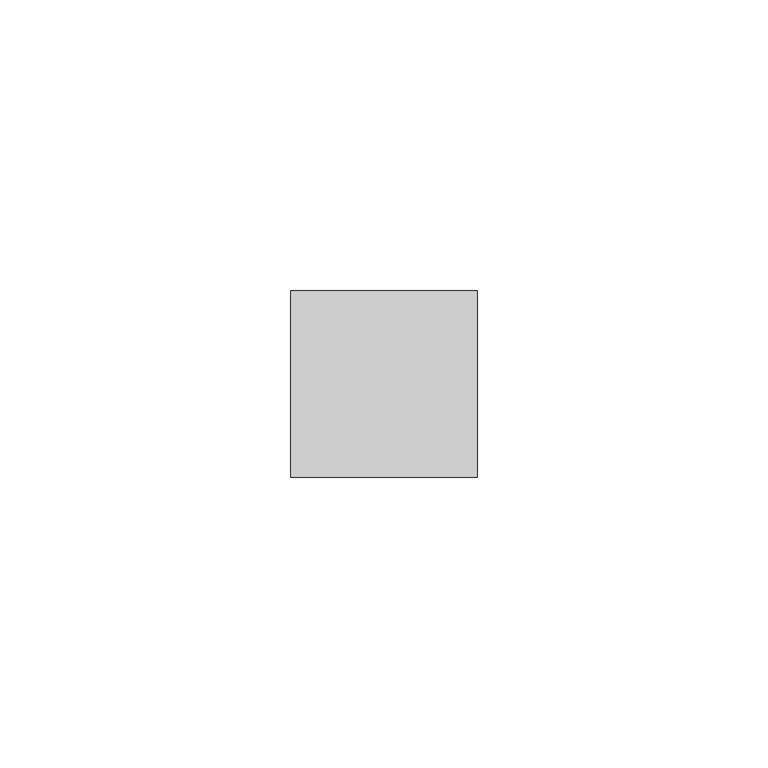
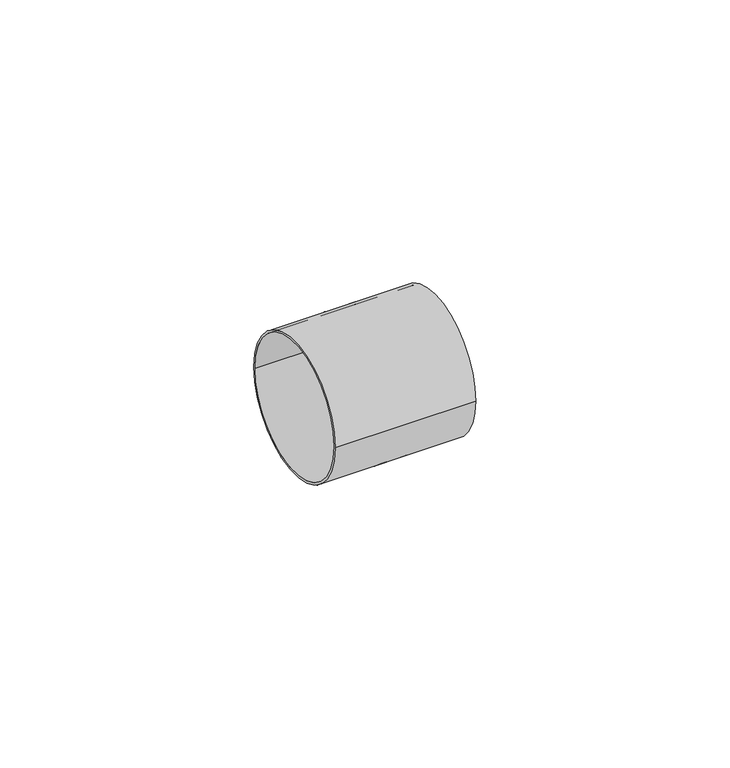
"""IFC4 building model written with IfcOpenShell, lengths in millimetres: pipe fitting geometry, БИР ПЕКС_НПР_Гильза : Гильза для труб ПЕКС."""

import ifcopenshell
import ifcopenshell.guid

model = None  # the IFC model being written
_history = None  # IfcOwnerHistory: only IFC2X3 demands one
_inside = {}  # id of a spatial element -> (the spatial element, [elements in it])
_under = {}  # id of a project, library or spatial element -> (it, [spatial elements below it])
_declared = {}  # id of a project -> (the project, [libraries it declares])
_typed = {}  # id of a type object -> (the type object, [elements of that type])
_made_of = {}  # id of a material, layer set ... -> (it, [elements and type objects made of it])


def new_model(schema):
    """Start an empty IFC model of exactly this schema.

    Asked for "IFC4X3", IfcOpenShell would pick the latest addendum, in which some entities
    have other attributes; the version numbers below select the first issue.
    IFC2X3 requires an IfcOwnerHistory on every rooted entity: one is made here for all.
    """
    global model, _history
    if schema == "IFC4X3":
        model = ifcopenshell.file(schema_version=(4, 3, 0, 0))
    else:
        model = ifcopenshell.file(schema=schema)
    _inside.clear()
    _under.clear()
    _declared.clear()
    _typed.clear()
    _made_of.clear()
    _history = None
    if model.schema == "IFC2X3":
        org = make("IfcOrganization", Name="unknown")
        user = make(
            "IfcPersonAndOrganization",
            ThePerson=make("IfcPerson", FamilyName="unknown"),
            TheOrganization=org,
        )
        app = make(
            "IfcApplication",
            ApplicationDeveloper=org,
            Version="unknown",
            ApplicationFullName="unknown",
            ApplicationIdentifier="unknown",
        )
        _history = make(
            "IfcOwnerHistory",
            OwningUser=user,
            OwningApplication=app,
            ChangeAction="ADDED",
            CreationDate=0,
        )
    return model


def make(cls, **values):
    """One entity of the class cls with the attributes given. An attribute that is None is left unset."""
    return model.create_entity(
        cls, **{name: value for name, value in values.items() if value is not None}
    )


def rooted(cls, **values):
    """An entity with a GlobalId (a new one), such as an element, a storey or a relation."""
    return make(cls, GlobalId=ifcopenshell.guid.new(), OwnerHistory=_history, **values)


def si_unit(unit_type, name, prefix=None):
    """IfcSIUnit, for example si_unit("LENGTHUNIT", "METRE", prefix="MILLI")."""
    return make("IfcSIUnit", UnitType=unit_type, Prefix=prefix, Name=name)


def assignment(units):
    """IfcUnitAssignment: the units of a project."""
    return None if units is None else make("IfcUnitAssignment", Units=units)


def point(xyz):
    """IfcCartesianPoint."""
    return None if xyz is None else make("IfcCartesianPoint", Coordinates=xyz)


def direction(xyz):
    """IfcDirection."""
    return None if xyz is None else make("IfcDirection", DirectionRatios=xyz)


def frame(location, z_axis=None, x_axis=None):
    """IfcAxis2Placement3D, a coordinate frame: its origin and axes. An axis left out is left unset."""
    return make(
        "IfcAxis2Placement3D",
        Location=point(location),
        Axis=direction(z_axis),
        RefDirection=direction(x_axis),
    )


def frame_2d(location, x_axis=None):
    """IfcAxis2Placement2D, a coordinate frame in the plane: its origin and x axis."""
    return make(
        "IfcAxis2Placement2D", Location=point(location), RefDirection=direction(x_axis)
    )


def origin():
    """The frame at (0, 0, 0) with its axes left unset."""
    return frame((0.0, 0.0, 0.0))


def origin_2d():
    """The frame at (0, 0) in the plane with its x axis left unset."""
    return frame_2d((0.0, 0.0))


def place(relative_to, where):
    """IfcLocalPlacement: puts the frame where relative to a parent placement (None: the world)."""
    return make(
        "IfcLocalPlacement", PlacementRelTo=relative_to, RelativePlacement=where
    )


def context(
    kind, dimensions, precision=None, world=None, true_north=None, identifier=None
):
    """IfcGeometricRepresentationContext, for example the 3D "Model" context."""
    return make(
        "IfcGeometricRepresentationContext",
        ContextIdentifier=identifier,
        ContextType=kind,
        CoordinateSpaceDimension=dimensions,
        Precision=precision,
        WorldCoordinateSystem=world,
        TrueNorth=true_north,
    )


def project(units=None, contexts=None):
    """IfcProject with its units and contexts."""
    return rooted(
        "IfcProject",
        Name="project",
        RepresentationContexts=contexts,
        UnitsInContext=assignment(units),
    )


def spatial(cls, under=None, at=None, **own):
    """A site, building, storey or space (cls), placed at a placement, below another one or the project."""
    s = rooted(cls, ObjectPlacement=at, **own)
    if under is not None:
        _under.setdefault(under.id(), (under, []))[1].append(s)
    return s


def circle_curve(where, radius):
    """IfcCircle in the frame where."""
    return make("IfcCircle", Position=where, Radius=radius)


def trimmed(basis, trim1, trim2, sense, master):
    """IfcTrimmedCurve: the piece of a basis curve between two trims."""
    return make(
        "IfcTrimmedCurve",
        BasisCurve=basis,
        Trim1=trim1,
        Trim2=trim2,
        SenseAgreement=sense,
        MasterRepresentation=master,
    )


def segment(curve, same_sense, transition):
    """IfcCompositeCurveSegment."""
    return make(
        "IfcCompositeCurveSegment",
        Transition=transition,
        SameSense=same_sense,
        ParentCurve=curve,
    )


def composite_curve(segments, self_intersect=None):
    """IfcCompositeCurve: segments joined end to end."""
    return make("IfcCompositeCurve", Segments=segments, SelfIntersect=self_intersect)


def outline(outer, holes=None, kind="AREA"):
    """IfcArbitraryClosedProfileDef: a profile drawn as a closed curve; with holes, ...WithVoids."""
    if holes is None:
        return make("IfcArbitraryClosedProfileDef", ProfileType=kind, OuterCurve=outer)
    return make(
        "IfcArbitraryProfileDefWithVoids",
        ProfileType=kind,
        OuterCurve=outer,
        InnerCurves=holes,
    )


def extrude(swept, where, along, depth):
    """IfcExtrudedAreaSolid: the profile swept, set in the frame where, extruded along a direction by depth."""
    return make(
        "IfcExtrudedAreaSolid",
        SweptArea=swept,
        Position=where,
        ExtrudedDirection=direction(along),
        Depth=depth,
    )


def shape(context_of_items, identifier, shape_type, items):
    """IfcShapeRepresentation: the items that make up one representation, for example the "Body"."""
    return make(
        "IfcShapeRepresentation",
        ContextOfItems=context_of_items,
        RepresentationIdentifier=identifier,
        RepresentationType=shape_type,
        Items=items,
    )


def source(mapping_origin, context_of_items, identifier, shape_type, items):
    """IfcRepresentationMap: a shape defined once, which mapped items show again and again."""
    return make(
        "IfcRepresentationMap",
        MappingOrigin=mapping_origin,
        MappedRepresentation=shape(context_of_items, identifier, shape_type, items),
    )


def transform(
    local_origin,
    x_axis=None,
    y_axis=None,
    z_axis=None,
    scale=None,
    scale2=None,
    scale3=None,
    uniform=True,
):
    """IfcCartesianTransformationOperator3D, or its non-uniform kind. x_axis, y_axis, z_axis: its Axis1, 2, 3."""
    if uniform:
        return make(
            "IfcCartesianTransformationOperator3D",
            Axis1=direction(x_axis),
            Axis2=direction(y_axis),
            LocalOrigin=point(local_origin),
            Scale=scale,
            Axis3=direction(z_axis),
        )
    return make(
        "IfcCartesianTransformationOperator3DnonUniform",
        Axis1=direction(x_axis),
        Axis2=direction(y_axis),
        LocalOrigin=point(local_origin),
        Scale=scale,
        Axis3=direction(z_axis),
        Scale2=scale2,
        Scale3=scale3,
    )


def mapped(mapping_source, mapping_target):
    """IfcMappedItem: shows the shape of a source again, moved by a transform."""
    return make(
        "IfcMappedItem", MappingSource=mapping_source, MappingTarget=mapping_target
    )


def made_of(thing, what):
    """Note that an element or type object is made of a material, layer set ...; save() writes the relation."""
    if what is not None:
        _made_of.setdefault(what.id(), (what, []))[1].append(thing)
    return thing


def element(
    cls,
    number,
    at=None,
    inside=None,
    cuts=None,
    type_object=None,
    material=None,
    context=None,
    identifier="Body",
    shape_type=None,
    held_by="IfcProductDefinitionShape",
    body=None,
    shapes=None,
    **own,
):
    """One element of the class cls, such as IfcWall. Its Tag is "e" and its number.

    at: its placement. inside: the storey or other place that contains it. cuts: it is an
    opening in that element (IfcRelVoidsElement). A single representation is given by context,
    identifier, shape_type and body (its items); several are given by shapes. held_by: the class
    of the entity that holds the representations. save() writes the other relations.
    """
    e = rooted(cls, Tag="e%d" % number, ObjectPlacement=at, **own)
    if body is not None:
        shapes = [shape(context, identifier, shape_type, body)]
    if shapes is not None:
        e.Representation = make(held_by, Representations=shapes)
    if inside is not None:
        _inside.setdefault(inside.id(), (inside, []))[1].append(e)
    if cuts is not None:
        rooted(
            "IfcRelVoidsElement", RelatingBuildingElement=cuts, RelatedOpeningElement=e
        )
    if type_object is not None:
        _typed.setdefault(type_object.id(), (type_object, []))[1].append(e)
    return made_of(e, material)


def aggregate(whole, parts):
    """IfcRelAggregates: a whole, such as a stair, and the parts it consists of."""
    return rooted("IfcRelAggregates", RelatingObject=whole, RelatedObjects=parts)


def save(model, path):
    """Write the relations noted so far, then the file.

    IfcRelAggregates (storeys below a building ...), IfcRelContainedInSpatialStructure (elements
    in a storey), IfcRelDefinesByType, IfcRelAssociatesMaterial and IfcRelDeclares: one each for
    every whole, place, type object, material and project.
    """
    for whole, parts in _under.values():
        aggregate(whole, parts)
    for where, things in _inside.values():
        rooted(
            "IfcRelContainedInSpatialStructure",
            RelatedElements=things,
            RelatingStructure=where,
        )
    for kind, things in _typed.values():
        rooted("IfcRelDefinesByType", RelatedObjects=things, RelatingType=kind)
    for what, things in _made_of.values():
        rooted("IfcRelAssociatesMaterial", RelatedObjects=things, RelatingMaterial=what)
    for by, libraries in _declared.values():
        rooted("IfcRelDeclares", RelatingContext=by, RelatedDefinitions=libraries)
    model.write(path)


def pipe_fitting_38ff202c(model_context):
    return source(origin(), model_context, "Body", "SweptSolid", [
        extrude(outline(composite_curve([segment(trimmed(circle_curve(origin_2d(), 16.0), [point((-16.0, 0.0))], [point((16.0, 0.0))], False, "CARTESIAN"), True, "CONTINUOUS"), segment(trimmed(circle_curve(origin_2d(), 16.0), [point((16.0, 0.0))], [point((-16.0, 0.0))], False, "CARTESIAN"), True, "CONTINUOUS")], self_intersect=False), holes=[composite_curve([segment(trimmed(circle_curve(origin_2d(), 15.5), [point((-15.5, 0.0))], [point((15.5, 0.0))], True, "CARTESIAN"), True, "CONTINUOUS"), segment(trimmed(circle_curve(origin_2d(), 15.5), [point((15.5, 0.0))], [point((-15.5, 0.0))], True, "CARTESIAN"), True, "CONTINUOUS")], self_intersect=False)]), frame((-16.0, 0.0, 0.0), z_axis=(1.0, 0.0, 0.0), x_axis=(0.0, 1.0, 0.0)), (0.0, 0.0, 1.0), 32.0),
        extrude(outline(composite_curve([segment(trimmed(circle_curve(origin_2d(), 16.0), [point((-16.0, 0.0))], [point((16.0, 0.0))], False, "CARTESIAN"), True, "CONTINUOUS"), segment(trimmed(circle_curve(origin_2d(), 16.0), [point((16.0, 0.0))], [point((-16.0, 0.0))], False, "CARTESIAN"), True, "CONTINUOUS")], self_intersect=False), holes=[composite_curve([segment(trimmed(circle_curve(origin_2d(), 15.5), [point((-15.5, 0.0))], [point((15.5, 0.0))], True, "CARTESIAN"), True, "CONTINUOUS"), segment(trimmed(circle_curve(origin_2d(), 15.5), [point((15.5, 0.0))], [point((-15.5, 0.0))], True, "CARTESIAN"), True, "CONTINUOUS")], self_intersect=False)]), frame((-3.0, 0.0, 0.0), z_axis=(1.0, 0.0, 0.0), x_axis=(0.0, 1.0, 0.0)), (0.0, 0.0, 1.0), 6.0),
    ])


if __name__ == "__main__":
    model = new_model("IFC4")
    model_context = context("Model", 3, world=origin())
    ifc_project = project(units=[si_unit("LENGTHUNIT", "METRE", prefix="MILLI")], contexts=[model_context])
    site = spatial("IfcSite", under=ifc_project)
    building = spatial("IfcBuilding", under=site)
    placement = place(None, origin())
    pipe_fitting_shape = pipe_fitting_38ff202c(model_context)
    element("IfcPipeFitting", 1, ObjectType="БИР ПЕКС_НПР_Гильза : Гильза для труб ПЕКС", at=placement, inside=building, context=model_context, shape_type="MappedRepresentation", body=[
        mapped(pipe_fitting_shape, transform((0.0, 0.0, 0.0), x_axis=(1.0, 0.0, 0.0), y_axis=(0.0, 1.0, 0.0), z_axis=(0.0, 0.0, 1.0))),
    ])
    save(model, "model.ifc")
